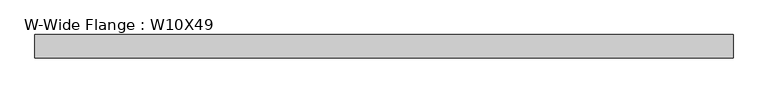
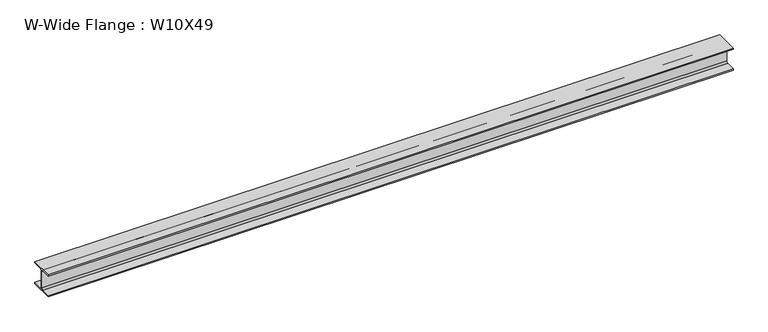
"""IFC4 building model written with IfcOpenShell, lengths in millimetres: beam geometry, W-Wide Flange : W10X49."""

from ifc_helpers import new_model, si_unit, point, frame, frame_2d, origin, place, context, project, spatial, polyline, circle_curve, trimmed, segment, composite_curve, outline, extrude, source, transform, mapped, element, save


def w_wide_flange_w10x49_ad4ce5ef(model_context):
    return source(origin(), model_context, "Body", "SweptSolid", [
        extrude(outline(composite_curve([segment(polyline([(127.0, -112.776), (127.0, -127.0), (-127.0, -127.0), (-127.0, -112.776), (-21.844, -112.776)]), True, "CONTINUOUS"), segment(trimmed(circle_curve(frame_2d((-21.844, -95.25)), 17.526), [point((-21.844, -112.776))], [point((-4.318, -95.25))], True, "CARTESIAN"), True, "CONTINUOUS"), segment(polyline([(-4.318, -95.25), (-4.318, 95.25)]), True, "CONTINUOUS"), segment(trimmed(circle_curve(frame_2d((-21.844, 95.25)), 17.526), [point((-4.318, 95.25))], [point((-21.844, 112.776))], True, "CARTESIAN"), True, "CONTINUOUS"), segment(polyline([(-21.844, 112.776), (-127.0, 112.776), (-127.0, 127.0), (127.0, 127.0), (127.0, 112.776), (21.844, 112.776)]), True, "CONTINUOUS"), segment(trimmed(circle_curve(frame_2d((21.844, 95.25)), 17.526), [point((21.844, 112.776))], [point((4.318, 95.25))], True, "CARTESIAN"), True, "CONTINUOUS"), segment(polyline([(4.318, 95.25), (4.318, -95.25)]), True, "CONTINUOUS"), segment(trimmed(circle_curve(frame_2d((21.844, -95.25)), 17.526), [point((4.318, -95.25))], [point((21.844, -112.776))], True, "CARTESIAN"), True, "CONTINUOUS"), segment(polyline([(21.844, -112.776), (127.0, -112.776)]), True, "CONTINUOUS")], self_intersect=False)), frame((-3764.7066406, 0.0, 0.0), z_axis=(1.0, 0.0, 0.0), x_axis=(0.0, 1.0, 0.0)), (0.0, 0.0, 1.0), 7529.4132813),
    ])


if __name__ == "__main__":
    model = new_model("IFC4")
    model_context = context("Model", 3, world=origin())
    ifc_project = project(units=[si_unit("LENGTHUNIT", "METRE", prefix="MILLI")], contexts=[model_context])
    site = spatial("IfcSite", under=ifc_project)
    building = spatial("IfcBuilding", under=site)
    placement = place(None, origin())
    w_wide_flange_w10x49_shape = w_wide_flange_w10x49_ad4ce5ef(model_context)
    element("IfcBeam", 1, ObjectType="W-Wide Flange : W10X49", at=placement, inside=building, context=model_context, shape_type="MappedRepresentation", body=[
        mapped(w_wide_flange_w10x49_shape, transform((0.0, 0.0, 0.0), x_axis=(1.0, 0.0, 0.0), y_axis=(0.0, 1.0, 0.0), z_axis=(0.0, 0.0, 1.0))),
    ])
    save(model, "model.ifc")
